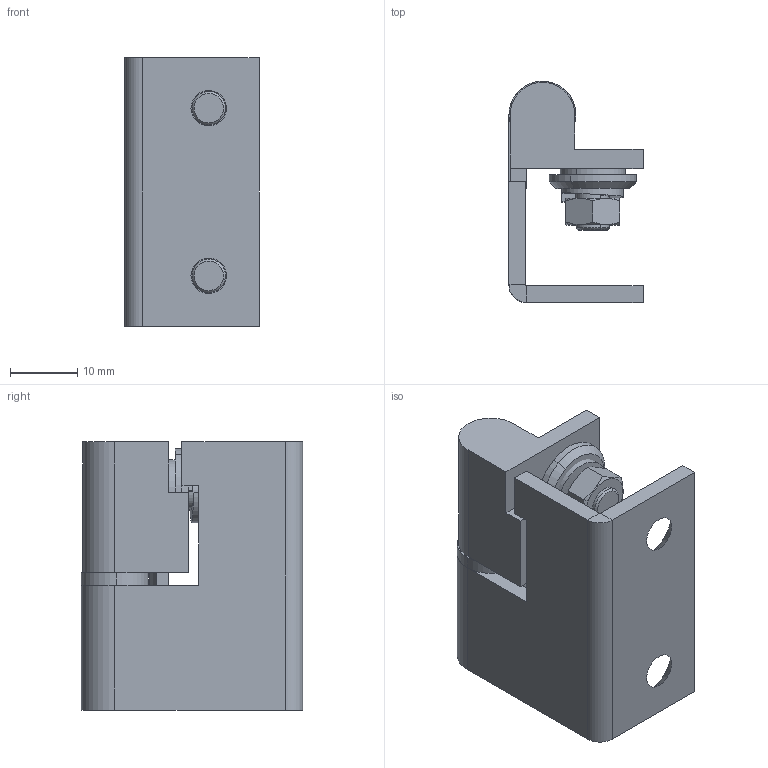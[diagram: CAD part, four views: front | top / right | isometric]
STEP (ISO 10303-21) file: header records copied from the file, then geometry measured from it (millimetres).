
FILE_DESCRIPTION (( 'STEP AP214' ), '1' );
FILE_NAME ('3.ZN140.001.STEP', '2017-10-25T17:32:54', ( '' ), ( '' ), 'SwSTEP 2.0', 'SolidWorks 2015', '' );
FILE_SCHEMA (( 'AUTOMOTIVE_DESIGN' ));
Length unit declared in the file: millimetre
Products named in the file (10): 3.ZN140.001.02.01_A; 3.ZN140.001.20_A; S-FH_M5x12; 3.ZN140.001.04_A; 3.ZN140.001; DIN 934_M5; DIN 127_M5 - ST; 3.ZN140.001.05_A; 3.ZN140.001.01.03_A; 3.ZN140.001.01.02_A
Assembly tree (13 placements, depth 3):
  3.ZN140.001
    3.ZN140.001.20_A
      3.ZN140.001.04_A
      S-FH_M5x12  x2
    3.ZN140.001.02.01_A
    3.ZN140.001.01.02_A
    3.ZN140.001.01.03_A
    3.ZN140.001.05_A  x2
    DIN 127_M5 - ST  x2
    DIN 934_M5  x2
Bounding box: 20 x 33 x 40 mm (x, y, z)
Volume: 10060.8 mm3; surface area: 9788 mm2
Topology: 12 solids, 12 shells, 303 faces, 686 edges, 443 vertices
Faces by surface type: plane 173, cylinder 88, cone 38, bspline 4
Entity records: 7143 total; most frequent: CARTESIAN_POINT 1305, DIRECTION 1183, ORIENTED_EDGE 1050, EDGE_CURVE 525, AXIS2_PLACEMENT_3D 427, VERTEX_POINT 341, VECTOR 329, LINE 329
